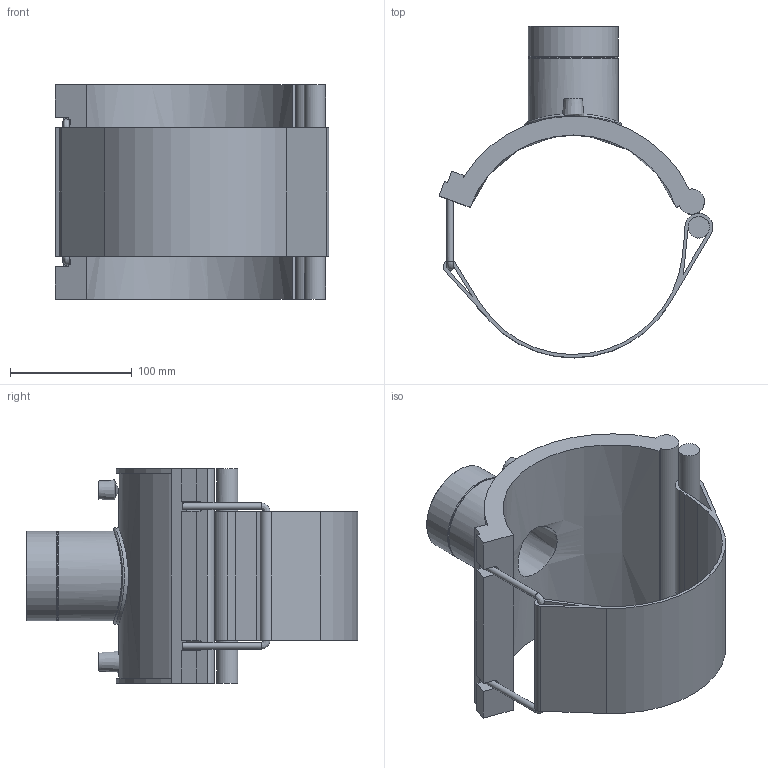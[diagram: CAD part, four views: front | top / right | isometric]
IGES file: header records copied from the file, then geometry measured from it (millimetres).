
Global section: file name: 493804180020.ipt; native system: Autodesk Inventor 2015; preprocessor: unknown; author: KIM; date: 20171106.094112; units: millimetre
Bounding box: 224.49 x 272.19 x 176 mm (x, y, z)
Volume: 977830 mm3; surface area: 238326.3 mm2
Topology: 2 solids, 2 shells, 80 faces, 200 edges, 128 vertices
Faces by surface type: plane 44, cylinder 19, revolution 11, cone 5, bspline 1
Full cylindrical faces by diameter (mm): 4 x2, 5.4 x2, 17.446 x1, 72.653 x1, 73.653 x2, 79.318 x1
